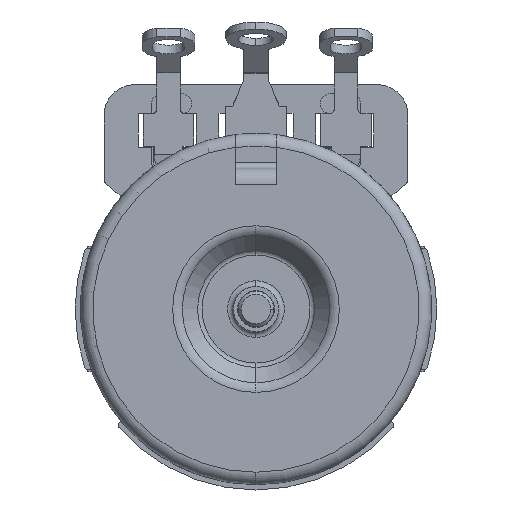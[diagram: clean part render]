
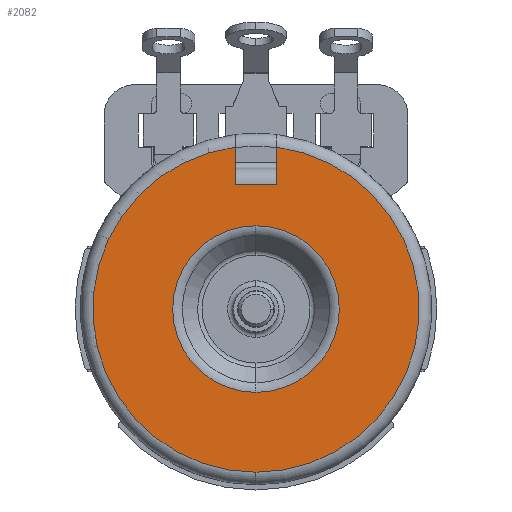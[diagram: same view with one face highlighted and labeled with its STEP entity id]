
A CAD part, front view. The second image highlights one B-rep face of the part: STEP entity #2082.
In plain terms, the highlighted planar face has unit normal (0, -1, 0).
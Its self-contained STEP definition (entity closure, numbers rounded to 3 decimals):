
#102 = CARTESIAN_POINT ( 'NONE',  ( 1.397, 0., 12.522 ) ) ;
#280 = DIRECTION ( 'NONE',  ( 0., 0., -1. ) ) ;
#424 = EDGE_LOOP ( 'NONE', ( #14700, #6774 ) ) ;
#426 = LINE ( 'NONE', #102, #12856 ) ;
#731 = VERTEX_POINT ( 'NONE', #1240 ) ;
#742 = VECTOR ( 'NONE', #1671, 1000. ) ;
#1240 = CARTESIAN_POINT ( 'NONE',  ( 0., 0., 5.603 ) ) ;
#1309 = DIRECTION ( 'NONE',  ( 0., -1., 0. ) ) ;
#1364 = CARTESIAN_POINT ( 'NONE',  ( -1.397, 0., 8.382 ) ) ;
#1525 = FACE_OUTER_BOUND ( 'NONE', #13902, .T. ) ;
#1671 = DIRECTION ( 'NONE',  ( 0., 0., -1. ) ) ;
#1682 = DIRECTION ( 'NONE',  ( -1., 0., 0. ) ) ;
#2082 = ADVANCED_FACE ( 'NONE', ( #1525, #21839 ), #11414, .T. ) ;
#2091 = DIRECTION ( 'NONE',  ( 0., 0., 1. ) ) ;
#2165 = AXIS2_PLACEMENT_3D ( 'NONE', #4760, #8308, #10086 ) ;
#2602 = VERTEX_POINT ( 'NONE', #17662 ) ;
#2893 = ORIENTED_EDGE ( 'NONE', *, *, #14117, .F. ) ;
#2951 = CIRCLE ( 'NONE', #8634, 5.603 ) ;
#3386 = ORIENTED_EDGE ( 'NONE', *, *, #12224, .T. ) ;
#4410 = AXIS2_PLACEMENT_3D ( 'NONE', #13688, #20208, #11804 ) ;
#4638 = CIRCLE ( 'NONE', #6784, 10.973 ) ;
#4760 = CARTESIAN_POINT ( 'NONE',  ( 0., 0., 0. ) ) ;
#6774 = ORIENTED_EDGE ( 'NONE', *, *, #10333, .T. ) ;
#6784 = AXIS2_PLACEMENT_3D ( 'NONE', #16515, #1309, #12737 ) ;
#6868 = AXIS2_PLACEMENT_3D ( 'NONE', #18162, #11636, #16513 ) ;
#7809 = EDGE_CURVE ( 'NONE', #21779, #731, #2951, .T. ) ;
#8124 = CARTESIAN_POINT ( 'NONE',  ( -1.397, 0., 8.382 ) ) ;
#8138 = CARTESIAN_POINT ( 'NONE',  ( -1.397, 0., 10.884 ) ) ;
#8308 = DIRECTION ( 'NONE',  ( 0., 1., 0. ) ) ;
#8567 = CIRCLE ( 'NONE', #2165, 5.603 ) ;
#8634 = AXIS2_PLACEMENT_3D ( 'NONE', #18806, #17463, #280 ) ;
#9143 = CARTESIAN_POINT ( 'NONE',  ( 1.397, 0., 8.382 ) ) ;
#9775 = CARTESIAN_POINT ( 'NONE',  ( 0., 0., -5.603 ) ) ;
#10086 = DIRECTION ( 'NONE',  ( 0., 0., -1. ) ) ;
#10333 = EDGE_CURVE ( 'NONE', #731, #21779, #8567, .T. ) ;
#10874 = CARTESIAN_POINT ( 'NONE',  ( 1.397, 0., 10.884 ) ) ;
#11414 = PLANE ( 'NONE',  #6868 ) ;
#11436 = EDGE_CURVE ( 'NONE', #19514, #2602, #4638, .T. ) ;
#11636 = DIRECTION ( 'NONE',  ( 0., -1., 0. ) ) ;
#11804 = DIRECTION ( 'NONE',  ( 0., 0., -1. ) ) ;
#12224 = EDGE_CURVE ( 'NONE', #16193, #20670, #13440, .T. ) ;
#12737 = DIRECTION ( 'NONE',  ( 0., 0., -1. ) ) ;
#12856 = VECTOR ( 'NONE', #2091, 1000. ) ;
#13232 = VECTOR ( 'NONE', #1682, 1000. ) ;
#13440 = LINE ( 'NONE', #8124, #13232 ) ;
#13688 = CARTESIAN_POINT ( 'NONE',  ( 0., 0., 0. ) ) ;
#13902 = EDGE_LOOP ( 'NONE', ( #21778, #3386, #2893, #21532, #14613 ) ) ;
#14117 = EDGE_CURVE ( 'NONE', #19514, #20670, #20514, .T. ) ;
#14613 = ORIENTED_EDGE ( 'NONE', *, *, #19644, .T. ) ;
#14700 = ORIENTED_EDGE ( 'NONE', *, *, #7809, .T. ) ;
#16112 = CIRCLE ( 'NONE', #4410, 10.973 ) ;
#16193 = VERTEX_POINT ( 'NONE', #9143 ) ;
#16513 = DIRECTION ( 'NONE',  ( 0., 0., -1. ) ) ;
#16515 = CARTESIAN_POINT ( 'NONE',  ( 0., 0., 0. ) ) ;
#16866 = CARTESIAN_POINT ( 'NONE',  ( -1.397, 0., 12.522 ) ) ;
#17463 = DIRECTION ( 'NONE',  ( 0., 1., 0. ) ) ;
#17662 = CARTESIAN_POINT ( 'NONE',  ( 0., 0., -10.973 ) ) ;
#18162 = CARTESIAN_POINT ( 'NONE',  ( -5.207, 0., 0. ) ) ;
#18425 = EDGE_CURVE ( 'NONE', #16193, #18696, #426, .T. ) ;
#18696 = VERTEX_POINT ( 'NONE', #10874 ) ;
#18806 = CARTESIAN_POINT ( 'NONE',  ( 0., 0., 0. ) ) ;
#19514 = VERTEX_POINT ( 'NONE', #8138 ) ;
#19644 = EDGE_CURVE ( 'NONE', #2602, #18696, #16112, .T. ) ;
#20208 = DIRECTION ( 'NONE',  ( 0., -1., 0. ) ) ;
#20514 = LINE ( 'NONE', #16866, #742 ) ;
#20670 = VERTEX_POINT ( 'NONE', #1364 ) ;
#21532 = ORIENTED_EDGE ( 'NONE', *, *, #11436, .T. ) ;
#21778 = ORIENTED_EDGE ( 'NONE', *, *, #18425, .F. ) ;
#21779 = VERTEX_POINT ( 'NONE', #9775 ) ;
#21839 = FACE_BOUND ( 'NONE', #424, .T. ) ;
